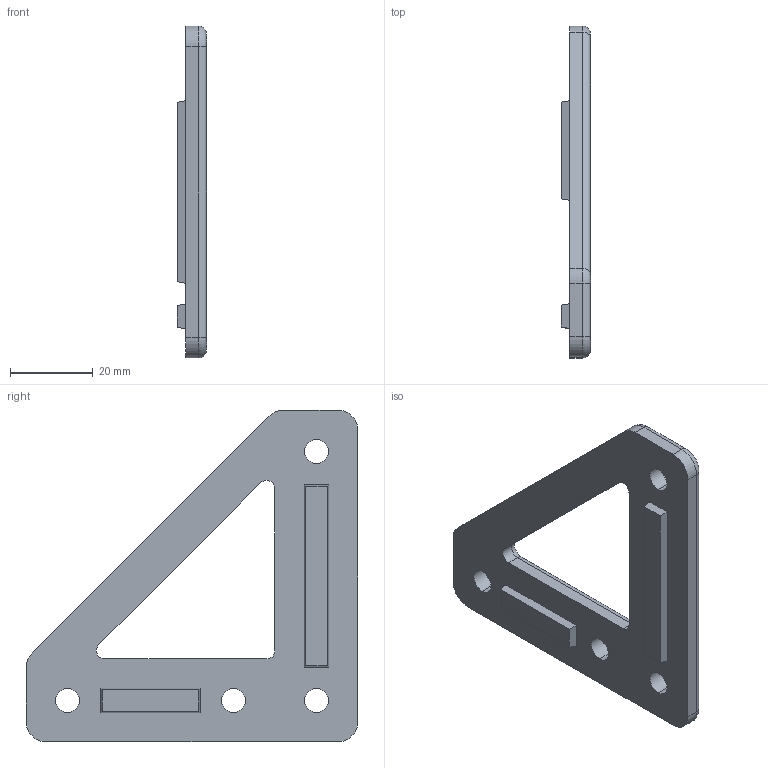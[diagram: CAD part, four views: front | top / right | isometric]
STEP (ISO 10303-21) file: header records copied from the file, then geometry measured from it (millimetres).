
FILE_DESCRIPTION (( 'STEP AP203' ), '1' );
FILE_NAME ('Z COLUMN FILLETS LEFT.STEP', '2012-08-20T19:10:31', ( '' ), ( '' ), 'SwSTEP 2.0', 'SolidWorks 2012', '' );
FILE_SCHEMA (( 'CONFIG_CONTROL_DESIGN' ));
Length unit declared in the file: millimetre
Products named in the file (1): Z COLUMN FILLETS LEFT
Bounding box: 7 x 80 x 80 mm (x, y, z)
Volume: 17578.5 mm3; surface area: 9256.3 mm2
Topology: 1 solids, 1 shells, 52 faces, 128 edges, 80 vertices
Faces by surface type: cylinder 24, plane 20, torus 8
Entity records: 1637 total; most frequent: DIRECTION 290, CARTESIAN_POINT 261, ORIENTED_EDGE 256, EDGE_CURVE 128, AXIS2_PLACEMENT_3D 109, VERTEX_POINT 80, VECTOR 72, LINE 72
